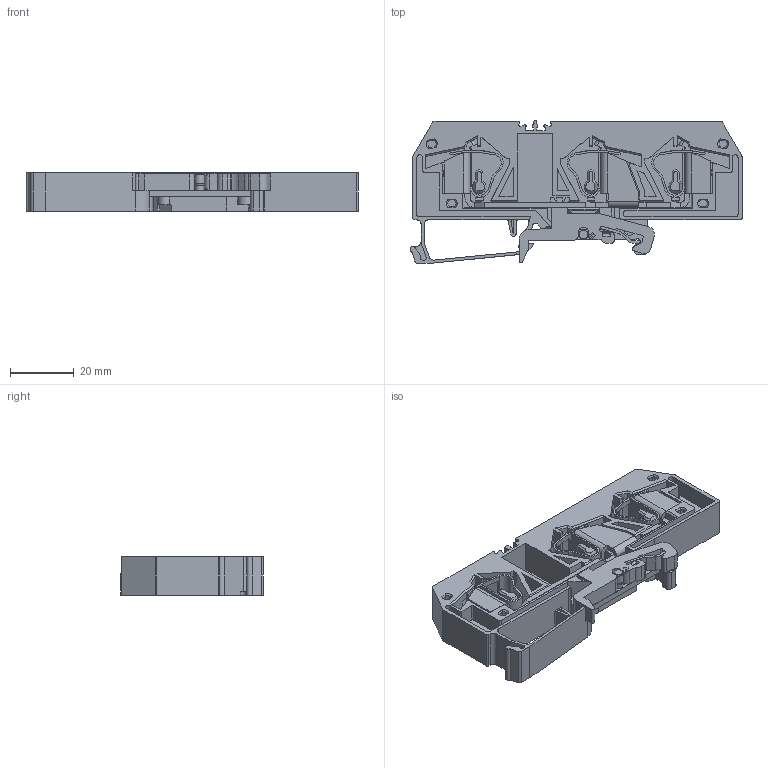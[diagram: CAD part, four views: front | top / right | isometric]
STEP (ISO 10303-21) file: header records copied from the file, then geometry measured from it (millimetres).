
FILE_DESCRIPTION (( 'STEP AP203' ), '1' );
FILE_NAME ('ﾊﾏﾐ1-16ﾂ-3ﾂ.STEP', '2019-03-04T12:40:17', ( '' ), ( '' ), 'SwSTEP 2.0', 'SolidWorks 2016', '' );
FILE_SCHEMA (( 'CONFIG_CONTROL_DESIGN' ));
Length unit declared in the file: millimetre
Products named in the file (1): ﾊﾏﾐ1-16ﾂ-3ﾂ
Bounding box: 104.3 x 44.9 x 12 mm (x, y, z)
Volume: 22064 mm3; surface area: 29085 mm2
Topology: 7 solids, 7 shells, 838 faces, 2346 edges, 1543 vertices
Faces by surface type: plane 578, cylinder 221, cone 39
Full cylindrical faces by diameter (mm): 1.3 x1, 1.5 x1, 1.8 x1, 2 x1, 2.4 x1, 2.65 x1, 2.7 x1, 2.95 x1, 3.1 x1, 3.4 x1, 9.5 x3
Entity records: 26864 total; most frequent: CARTESIAN_POINT 5315, ORIENTED_EDGE 4622, DIRECTION 4256, EDGE_CURVE 2311, LINE 1686, VECTOR 1686, VERTEX_POINT 1536, AXIS2_PLACEMENT_3D 1285
